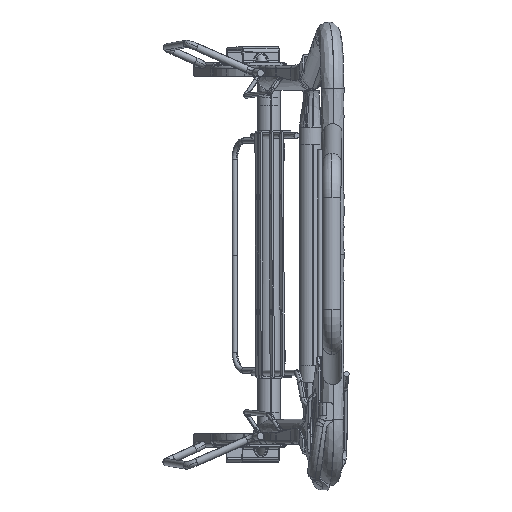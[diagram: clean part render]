
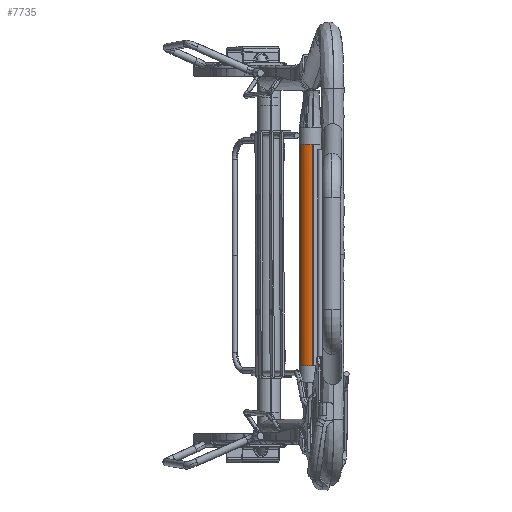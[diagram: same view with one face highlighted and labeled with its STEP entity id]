
A CAD part, top view. The second image highlights one B-rep face of the part: STEP entity #7735.
In plain terms, the highlighted cylindrical face has radius 12.5 mm (diameter 25 mm), a partial arc.
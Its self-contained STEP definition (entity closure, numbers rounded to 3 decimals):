
#7218=AXIS2_PLACEMENT_3D('Circle Axis2P3D',#7216,#7217,$) ;
#7693=AXIS2_PLACEMENT_3D('Cylinder Axis2P3D',#7690,#7691,#7692) ;
#7213=CARTESIAN_POINT('Vertex',(639.321,-593.851,819.751)) ;
#7216=CARTESIAN_POINT('Axis2P3D Location',(641.568,-593.851,807.455)) ;
#7220=CARTESIAN_POINT('Vertex',(653.865,-593.848,809.702)) ;
#7690=CARTESIAN_POINT('Axis2P3D Location',(641.588,-668.599,807.46)) ;
#7695=CARTESIAN_POINT('Line Origine',(639.341,-668.599,819.756)) ;
#7699=CARTESIAN_POINT('Vertex',(639.384,-834.635,819.766)) ;
#7714=CARTESIAN_POINT('Line Origine',(653.884,-668.595,809.707)) ;
#7718=CARTESIAN_POINT('Vertex',(653.927,-834.631,809.717)) ;
#7722=CARTESIAN_POINT('Control Point',(639.384,-834.635,819.766)) ;
#7723=CARTESIAN_POINT('Control Point',(643.247,-834.633,820.472)) ;
#7724=CARTESIAN_POINT('Control Point',(647.39,-834.632,819.666)) ;
#7725=CARTESIAN_POINT('Control Point',(651.002,-834.632,817.17)) ;
#7726=CARTESIAN_POINT('Control Point',(653.221,-834.631,813.58)) ;
#7727=CARTESIAN_POINT('Control Point',(653.927,-834.631,809.717)) ;
#7217=DIRECTION('Axis2P3D Direction',(0.,1.,0.)) ;
#7691=DIRECTION('Axis2P3D Direction',(0.,1.,0.)) ;
#7692=DIRECTION('Axis2P3D XDirection',(-0.984,0.,-0.18)) ;
#7696=DIRECTION('Vector Direction',(0.,1.,0.)) ;
#7715=DIRECTION('Vector Direction',(0.,1.,0.)) ;
#7697=VECTOR('Line Direction',#7696,1.) ;
#7716=VECTOR('Line Direction',#7715,1.) ;
#7730=ORIENTED_EDGE('',*,*,#7720,.F.) ;
#7731=ORIENTED_EDGE('',*,*,#7222,.T.) ;
#7732=ORIENTED_EDGE('',*,*,#7701,.T.) ;
#7733=ORIENTED_EDGE('',*,*,#7728,.F.) ;
#7735=ADVANCED_FACE('SHT0012224_AllCATPart.1\\\X2\976080CC94A27BA14E0A6A2A9AA867B6\X0\.1\\\X2\4EA754C1\X0\2_AllCATPart.1\\ECAS-6805001.1\\\X2\976080CC94A27BA14E0A6A2A9AA867B6\X0\\\\X2\976080CC9AA867B688C5914D603B6210\X0\\\\X2\976080CC9AA867B6710A63A5603B6210\X0\\\\X2\976080CC94A27BA14E0A6A2A9AA867B6\X0\.1\\\X2\652F64917BA1\X0\-\X2\65B968484E00\X0\',(#7734),#7694,.T.) ;
#7721=B_SPLINE_CURVE_WITH_KNOTS('',5,(#7722,#7723,#7724,#7725,#7726,#7727),.UNSPECIFIED.,.F.,.U.,(6,6),(-9.817,9.817),.UNSPECIFIED.) ;
#7219=CIRCLE('generated circle',#7218,12.5) ;
#7694=CYLINDRICAL_SURFACE('generated cylinder',#7693,12.5) ;
#7222=EDGE_CURVE('',#7221,#7214,#7219,.F.) ;
#7701=EDGE_CURVE('',#7214,#7700,#7698,.F.) ;
#7720=EDGE_CURVE('',#7221,#7719,#7717,.F.) ;
#7728=EDGE_CURVE('',#7719,#7700,#7721,.F.) ;
#7729=EDGE_LOOP('',(#7730,#7731,#7732,#7733)) ;
#7734=FACE_OUTER_BOUND('',#7729,.T.) ;
#7698=LINE('Line',#7695,#7697) ;
#7717=LINE('Line',#7714,#7716) ;
#7214=VERTEX_POINT('',#7213) ;
#7221=VERTEX_POINT('',#7220) ;
#7700=VERTEX_POINT('',#7699) ;
#7719=VERTEX_POINT('',#7718) ;
